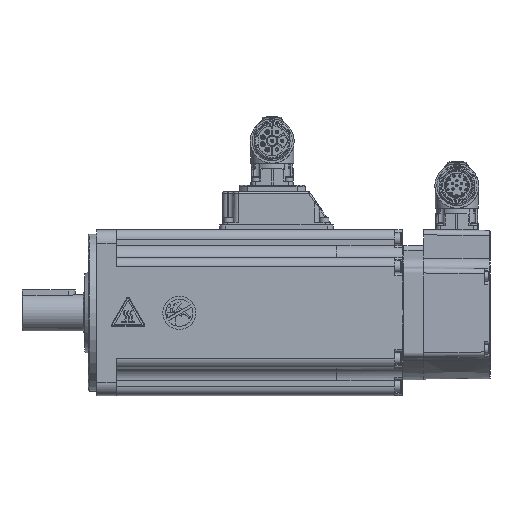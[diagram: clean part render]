
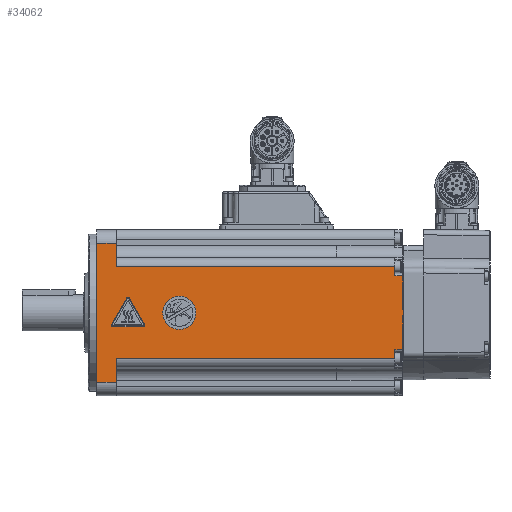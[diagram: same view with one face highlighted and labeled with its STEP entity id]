
A CAD part, front view. The second image highlights one B-rep face of the part: STEP entity #34062.
In plain terms, the highlighted planar face has unit normal (0, -1, 0).
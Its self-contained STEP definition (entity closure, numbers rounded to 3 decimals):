
#34062 = ADVANCED_FACE( '', ( #57653, #57654, #57655 ), #57656, .T. );
#57653 = FACE_BOUND( '', #67304, .T. );
#57654 = FACE_OUTER_BOUND( '', #67305, .T. );
#57655 = FACE_BOUND( '', #67306, .T. );
#57656 = PLANE( '', #67307 );
#60644 = EDGE_CURVE( 'NONE', #72471, #72472, #72473, .T. );
#60866 = EDGE_CURVE( '', #72815, #72812, #72816, .F. );
#60945 = EDGE_CURVE( '', #72937, #72938, #72939, .T. );
#62011 = EDGE_CURVE( '', #74597, #74597, #74598, .T. );
#62053 = EDGE_CURVE( '', #74655, #74653, #74656, .T. );
#62599 = EDGE_CURVE( '', #75447, #72938, #75448, .F. );
#62758 = EDGE_CURVE( 'NONE', #75683, #72471, #75685, .T. );
#63177 = EDGE_CURVE( 'NONE', #76277, #76278, #76279, .T. );
#63571 = EDGE_CURVE( '', #72812, #76824, #76826, .T. );
#63801 = EDGE_CURVE( '', #77147, #75447, #77148, .T. );
#64322 = EDGE_CURVE( 'NONE', #76278, #77856, #77857, .T. );
#64905 = EDGE_CURVE( 'NONE', #77856, #75683, #78575, .T. );
#65166 = EDGE_CURVE( '', #78897, #77147, #78898, .T. );
#65306 = EDGE_CURVE( 'NONE', #72472, #76277, #79075, .T. );
#65665 = EDGE_CURVE( '', #79495, #79493, #79496, .T. );
#65888 = EDGE_CURVE( '', #74653, #79495, #79754, .F. );
#65932 = EDGE_CURVE( '', #78897, #79805, #79806, .T. );
#66724 = EDGE_CURVE( '', #79493, #72815, #80662, .T. );
#67304 = EDGE_LOOP( '', ( #82166 ) );
#67305 = EDGE_LOOP( '', ( #82167, #82168, #82169, #82170, #82171, #82172, #82173, #82174, #82175, #82176, #82177, #82178, #82179 ) );
#67306 = EDGE_LOOP( '', ( #82180, #82181, #82182, #82183, #82184, #82185 ) );
#67307 = AXIS2_PLACEMENT_3D( '', #82186, #82187, #82188 );
#72471 = VERTEX_POINT( 'NONE', #92302 );
#72472 = VERTEX_POINT( 'NONE', #92303 );
#72473 = LINE( '', #92304, #92305 );
#72812 = VERTEX_POINT( '', #93101 );
#72815 = VERTEX_POINT( '', #93104 );
#72816 = LINE( '', #93105, #93106 );
#72937 = VERTEX_POINT( '', #93426 );
#72938 = VERTEX_POINT( '', #93427 );
#72939 = LINE( '', #93428, #93429 );
#74597 = VERTEX_POINT( '', #96947 );
#74598 = CIRCLE( '', #96948, 10. );
#74653 = VERTEX_POINT( '', #97029 );
#74655 = VERTEX_POINT( '', #97031 );
#74656 = LINE( '', #97032, #97033 );
#75447 = VERTEX_POINT( '', #98648 );
#75448 = LINE( '', #98649, #98650 );
#75683 = VERTEX_POINT( 'NONE', #99085 );
#75685 = CIRCLE( '', #99088, 1. );
#76277 = VERTEX_POINT( '', #100459 );
#76278 = VERTEX_POINT( 'NONE', #100460 );
#76279 = LINE( '', #100461, #100462 );
#76824 = VERTEX_POINT( '', #101561 );
#76826 = LINE( '', #101563, #101564 );
#77147 = VERTEX_POINT( '', #102274 );
#77148 = LINE( '', #102275, #102276 );
#77856 = VERTEX_POINT( 'NONE', #103468 );
#77857 = CIRCLE( '', #103469, 1. );
#78575 = LINE( '', #104958, #104959 );
#78897 = VERTEX_POINT( '', #105577 );
#78898 = LINE( '', #105578, #105579 );
#79075 = CIRCLE( '', #105966, 1. );
#79493 = VERTEX_POINT( '', #106794 );
#79495 = VERTEX_POINT( '', #106797 );
#79496 = LINE( '', #106798, #106799 );
#79754 = LINE( '', #107289, #107290 );
#79805 = VERTEX_POINT( '', #107365 );
#79806 = LINE( '', #107366, #107367 );
#80662 = LINE( '', #108666, #108667 );
#82166 = ORIENTED_EDGE( '', *, *, #62011, .F. );
#82167 = ORIENTED_EDGE( '', *, *, #109141, .T. );
#82168 = ORIENTED_EDGE( '', *, *, #62053, .T. );
#82169 = ORIENTED_EDGE( '', *, *, #65888, .T. );
#82170 = ORIENTED_EDGE( '', *, *, #65665, .T. );
#82171 = ORIENTED_EDGE( '', *, *, #66724, .T. );
#82172 = ORIENTED_EDGE( '', *, *, #60866, .T. );
#82173 = ORIENTED_EDGE( '', *, *, #63571, .T. );
#82174 = ORIENTED_EDGE( '', *, *, #109155, .T. );
#82175 = ORIENTED_EDGE( '', *, *, #65932, .F. );
#82176 = ORIENTED_EDGE( '', *, *, #65166, .T. );
#82177 = ORIENTED_EDGE( '', *, *, #63801, .T. );
#82178 = ORIENTED_EDGE( '', *, *, #62599, .T. );
#82179 = ORIENTED_EDGE( '', *, *, #60945, .F. );
#82180 = ORIENTED_EDGE( '', *, *, #62758, .F. );
#82181 = ORIENTED_EDGE( '', *, *, #64905, .F. );
#82182 = ORIENTED_EDGE( '', *, *, #64322, .F. );
#82183 = ORIENTED_EDGE( '', *, *, #63177, .F. );
#82184 = ORIENTED_EDGE( '', *, *, #65306, .F. );
#82185 = ORIENTED_EDGE( '', *, *, #60644, .F. );
#82186 = CARTESIAN_POINT( '', ( 66.642, -50., -50. ) );
#82187 = DIRECTION( '', ( 0., -1., 0. ) );
#82188 = DIRECTION( '', ( 1., 0., 0. ) );
#92302 = CARTESIAN_POINT( '', ( -183.383, -50., -8.5 ) );
#92303 = CARTESIAN_POINT( '', ( -165.117, -50., -8.5 ) );
#92304 = CARTESIAN_POINT( '', ( -183.383, -50., -8.5 ) );
#92305 = VECTOR( '', #113147, 1000. );
#93101 = CARTESIAN_POINT( '', ( -13.25, -50., 22.25 ) );
#93104 = CARTESIAN_POINT( '', ( -8.444, -50., 22.25 ) );
#93105 = CARTESIAN_POINT( '', ( -13.25, -50., 22.25 ) );
#93106 = VECTOR( '', #113407, 1000. );
#93426 = CARTESIAN_POINT( '', ( -181.25, -50., -27.75 ) );
#93427 = CARTESIAN_POINT( '', ( -181.25, -50., -42. ) );
#93428 = CARTESIAN_POINT( '', ( -181.25, -50., -50. ) );
#93429 = VECTOR( '', #113486, 1000. );
#96947 = CARTESIAN_POINT( '', ( -133.25, -50., 0. ) );
#96948 = AXIS2_PLACEMENT_3D( '', #114668, #114669, #114670 );
#97029 = CARTESIAN_POINT( '', ( -13.25, -50., -22.25 ) );
#97031 = CARTESIAN_POINT( '', ( -13.25, -50., -27.75 ) );
#97032 = CARTESIAN_POINT( '', ( -13.25, -50., 50. ) );
#97033 = VECTOR( '', #114732, 1000. );
#98648 = CARTESIAN_POINT( '', ( -193.25, -50., -42. ) );
#98649 = CARTESIAN_POINT( '', ( 66.642, -50., -42. ) );
#98650 = VECTOR( '', #115381, 1000. );
#99085 = CARTESIAN_POINT( '', ( -184.249, -50., -7. ) );
#99088 = AXIS2_PLACEMENT_3D( '', #115535, #115536, #115537 );
#100459 = CARTESIAN_POINT( '', ( -164.251, -50., -7. ) );
#100460 = CARTESIAN_POINT( '', ( -173.384, -50., 8.801 ) );
#100461 = CARTESIAN_POINT( '', ( -173.384, -50., 8.801 ) );
#100462 = VECTOR( '', #115998, 1000. );
#101561 = CARTESIAN_POINT( '', ( -13.25, -50., 27.75 ) );
#101563 = CARTESIAN_POINT( '', ( -13.25, -50., 50. ) );
#101564 = VECTOR( '', #116469, 1000. );
#102274 = CARTESIAN_POINT( '', ( -193.25, -50., 42. ) );
#102275 = CARTESIAN_POINT( '', ( -193.25, -50., -50. ) );
#102276 = VECTOR( '', #116658, 1000. );
#103468 = CARTESIAN_POINT( '', ( -175.116, -50., 8.801 ) );
#103469 = AXIS2_PLACEMENT_3D( '', #117228, #117229, #117230 );
#104958 = CARTESIAN_POINT( '', ( -184.249, -50., -7. ) );
#104959 = VECTOR( '', #117775, 1000. );
#105577 = CARTESIAN_POINT( '', ( -181.25, -50., 42. ) );
#105578 = CARTESIAN_POINT( '', ( 66.642, -50., 42. ) );
#105579 = VECTOR( '', #118031, 1000. );
#105966 = AXIS2_PLACEMENT_3D( '', #118163, #118164, #118165 );
#106794 = CARTESIAN_POINT( '', ( -8.25, -50., 0. ) );
#106797 = CARTESIAN_POINT( '', ( -8.444, -50., -22.25 ) );
#106798 = CARTESIAN_POINT( '', ( -7.818, -50., 49.545 ) );
#106799 = VECTOR( '', #118461, 1000. );
#107289 = CARTESIAN_POINT( '', ( -8.25, -50., -22.25 ) );
#107290 = VECTOR( '', #118638, 1000. );
#107365 = CARTESIAN_POINT( '', ( -181.25, -50., 27.75 ) );
#107366 = CARTESIAN_POINT( '', ( -181.25, -50., -50. ) );
#107367 = VECTOR( '', #118687, 1000. );
#108666 = CARTESIAN_POINT( '', ( -8.69, -50., 50.448 ) );
#108667 = VECTOR( '', #119147, 1000. );
#109141 = EDGE_CURVE( '', #72937, #74655, #119485, .T. );
#109155 = EDGE_CURVE( '', #76824, #79805, #119499, .T. );
#113147 = DIRECTION( '', ( 1., 0., 0. ) );
#113407 = DIRECTION( '', ( 1., 0., 0. ) );
#113486 = DIRECTION( '', ( 0., 0., -1. ) );
#114668 = CARTESIAN_POINT( '', ( -143.25, -50., 0. ) );
#114669 = DIRECTION( '', ( 0., -1., 0. ) );
#114670 = DIRECTION( '', ( 1., 0., 0. ) );
#114732 = DIRECTION( '', ( 0., 0., 1. ) );
#115381 = DIRECTION( '', ( -1., 0., 0. ) );
#115535 = CARTESIAN_POINT( '', ( -183.383, -50., -7.5 ) );
#115536 = DIRECTION( '', ( 0., -1., 0. ) );
#115537 = DIRECTION( '', ( -1., 0., 0. ) );
#115998 = DIRECTION( '', ( -0.5, 0., 0.866 ) );
#116469 = DIRECTION( '', ( 0., 0., 1. ) );
#116658 = DIRECTION( '', ( 0., 0., -1. ) );
#117228 = CARTESIAN_POINT( '', ( -174.25, -50., 8.301 ) );
#117229 = DIRECTION( '', ( 0., -1., 0. ) );
#117230 = DIRECTION( '', ( -1., 0., 0. ) );
#117775 = DIRECTION( '', ( -0.5, 0., -0.866 ) );
#118031 = DIRECTION( '', ( -1., 0., 0. ) );
#118163 = CARTESIAN_POINT( '', ( -165.117, -50., -7.5 ) );
#118164 = DIRECTION( '', ( 0., -1., 0. ) );
#118165 = DIRECTION( '', ( 1., 0., 0. ) );
#118461 = DIRECTION( '', ( 0.009, 0., 1. ) );
#118638 = DIRECTION( '', ( -1., 0., 0. ) );
#118687 = DIRECTION( '', ( 0., 0., -1. ) );
#119147 = DIRECTION( '', ( -0.009, 0., 1. ) );
#119485 = LINE( '', #120190, #120191 );
#119499 = LINE( '', #120218, #120219 );
#120190 = CARTESIAN_POINT( '', ( 66.642, -50., -27.75 ) );
#120191 = VECTOR( '', #120844, 1000. );
#120218 = CARTESIAN_POINT( '', ( 66.642, -50., 27.75 ) );
#120219 = VECTOR( '', #120858, 1000. );
#120844 = DIRECTION( '', ( 1., 0., 0. ) );
#120858 = DIRECTION( '', ( -1., 0., 0. ) );
